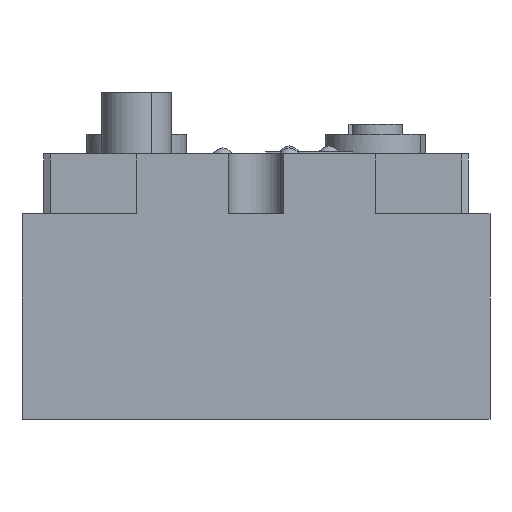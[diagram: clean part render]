
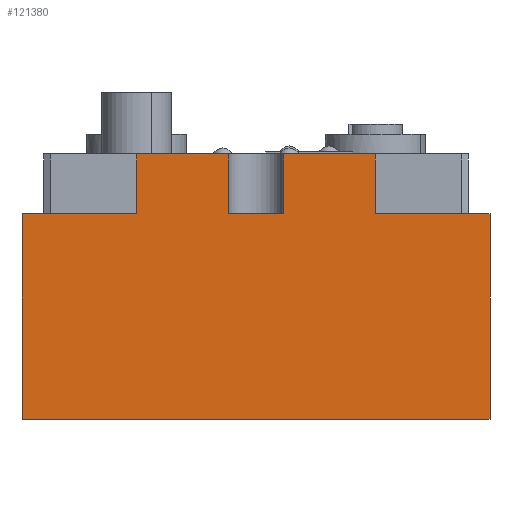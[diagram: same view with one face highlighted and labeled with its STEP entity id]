
A CAD part, front view. The second image highlights one B-rep face of the part: STEP entity #121380.
In plain terms, the highlighted planar face has unit normal (0, -1, 0).
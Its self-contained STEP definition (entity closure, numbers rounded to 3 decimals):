
#22700=CARTESIAN_POINT('',(-38.3,-205.925,-9.));
#22710=VERTEX_POINT('',#22700);
#22860=CARTESIAN_POINT('',(-38.3,-205.925,0.));
#22870=VERTEX_POINT('',#22860);
#22900=CARTESIAN_POINT('',(-38.3,-205.925,0.));
#22910=DIRECTION('',(0.,0.,-1.));
#22920=VECTOR('',#22910,1.);
#22930=LINE('',#22900,#22920);
#22940=EDGE_CURVE('',#22870,#22710,#22930,.T.);
#26240=CARTESIAN_POINT('',(-46.7,-205.925,0.));
#26250=DIRECTION('',(0.,0.,-1.));
#26260=VECTOR('',#26250,1.);
#26270=LINE('',#26240,#26260);
#26280=CARTESIAN_POINT('',(-46.7,-205.925,0.));
#26290=VERTEX_POINT('',#26280);
#26300=CARTESIAN_POINT('',(-46.7,-205.925,-9.));
#26310=VERTEX_POINT('',#26300);
#26320=EDGE_CURVE('',#26290,#26310,#26270,.T.);
#48870=CARTESIAN_POINT('',(-77.75,-205.925,-9.));
#48880=VERTEX_POINT('',#48870);
#48930=CARTESIAN_POINT('',(-77.75,-205.925,0.));
#48940=DIRECTION('',(0.,0.,-1.));
#48950=VECTOR('',#48940,1.);
#48960=LINE('',#48930,#48950);
#48970=CARTESIAN_POINT('',(-77.75,-205.925,-40.));
#48980=VERTEX_POINT('',#48970);
#48990=EDGE_CURVE('',#48880,#48980,#48960,.T.);
#57780=CARTESIAN_POINT('',(0.,-205.925,-9.));
#57790=DIRECTION('',(-1.,0.,0.));
#57800=VECTOR('',#57790,1.);
#57810=LINE('',#57780,#57800);
#57820=EDGE_CURVE('',#22710,#26310,#57810,.T.);
#77870=CARTESIAN_POINT('',(-60.5,-205.925,-9.)
);
#77880=VERTEX_POINT('',#77870);
#77910=CARTESIAN_POINT('',(0.,-205.925,-9.));
#77920=DIRECTION('',(1.,0.,0.));
#77930=VECTOR('',#77920,1.);
#77940=LINE('',#77910,#77930);
#77950=EDGE_CURVE('',#48880,#77880,#77940,.T.);
#78330=CARTESIAN_POINT('',(-7.25,-205.925,-9.)
);
#78340=VERTEX_POINT('',#78330);
#78370=CARTESIAN_POINT('',(-24.5,-205.925,-9.));
#78380=VERTEX_POINT('',#78370);
#78390=EDGE_CURVE('',#78380,#78340,#77940,.T.);
#81780=CARTESIAN_POINT('',(-24.5,-205.925,0.));
#81790=DIRECTION('',(0.,0.,1.));
#81800=VECTOR('',#81790,1.);
#81810=LINE('',#81780,#81800);
#81820=CARTESIAN_POINT('',(-24.5,-205.925,0.));
#81830=VERTEX_POINT('',#81820);
#81840=EDGE_CURVE('',#78380,#81830,#81810,.T.);
#87570=CARTESIAN_POINT('',(-7.25,-205.925,-40.)
);
#87580=VERTEX_POINT('',#87570);
#87610=CARTESIAN_POINT('',(-7.25,-205.925,0.));
#87620=DIRECTION('',(0.,0.,1.));
#87630=VECTOR('',#87620,1.);
#87640=LINE('',#87610,#87630);
#87650=EDGE_CURVE('',#87580,#78340,#87640,.T.);
#107460=CARTESIAN_POINT('',(0.,-205.925,-40.));
#107470=DIRECTION('',(1.,0.,0.));
#107480=VECTOR('',#107470,1.);
#107490=LINE('',#107460,#107480);
#107500=EDGE_CURVE('',#48980,#87580,#107490,.T.);
#121060=CARTESIAN_POINT('',(-77.75,-205.925,-40.));
#121070=DIRECTION('',(0.,-1.,0.));
#121080=DIRECTION('',(1.,0.,0.));
#121090=AXIS2_PLACEMENT_3D('',#121060,#121070,#121080);
#121100=PLANE('',#121090);
#121110=ORIENTED_EDGE('',*,*,#78390,.F.);
#121120=ORIENTED_EDGE('',*,*,#87650,.T.);
#121130=ORIENTED_EDGE('',*,*,#107500,.T.);
#121140=ORIENTED_EDGE('',*,*,#48990,.T.);
#121150=ORIENTED_EDGE('',*,*,#77950,.F.);
#121160=CARTESIAN_POINT('',(-60.5,-205.925,0.));
#121170=DIRECTION('',(0.,0.,-1.));
#121180=VECTOR('',#121170,1.);
#121190=LINE('',#121160,#121180);
#121200=CARTESIAN_POINT('',(-60.5,-205.925,
0.));
#121210=VERTEX_POINT('',#121200);
#121220=EDGE_CURVE('',#121210,#77880,#121190,.T.);
#121230=ORIENTED_EDGE('',*,*,#121220,.T.);
#121240=CARTESIAN_POINT('',(0.,-205.925,0.));
#121250=DIRECTION('',(1.,0.,0.));
#121260=VECTOR('',#121250,1.);
#121270=LINE('',#121240,#121260);
#121280=EDGE_CURVE('',#121210,#26290,#121270,.T.);
#121290=ORIENTED_EDGE('',*,*,#121280,.F.);
#121300=ORIENTED_EDGE('',*,*,#26320,.F.);
#121310=ORIENTED_EDGE('',*,*,#57820,.T.);
#121320=ORIENTED_EDGE('',*,*,#22940,.T.);
#121330=EDGE_CURVE('',#22870,#81830,#121270,.T.);
#121340=ORIENTED_EDGE('',*,*,#121330,.F.);
#121350=ORIENTED_EDGE('',*,*,#81840,.T.);
#121360=EDGE_LOOP('',(#121350,#121340,#121320,#121310,#121300,#121290,
#121230,#121150,#121140,#121130,#121120,#121110));
#121370=FACE_OUTER_BOUND('',#121360,.T.);
#121380=ADVANCED_FACE('',(#121370),#121100,.T.);
